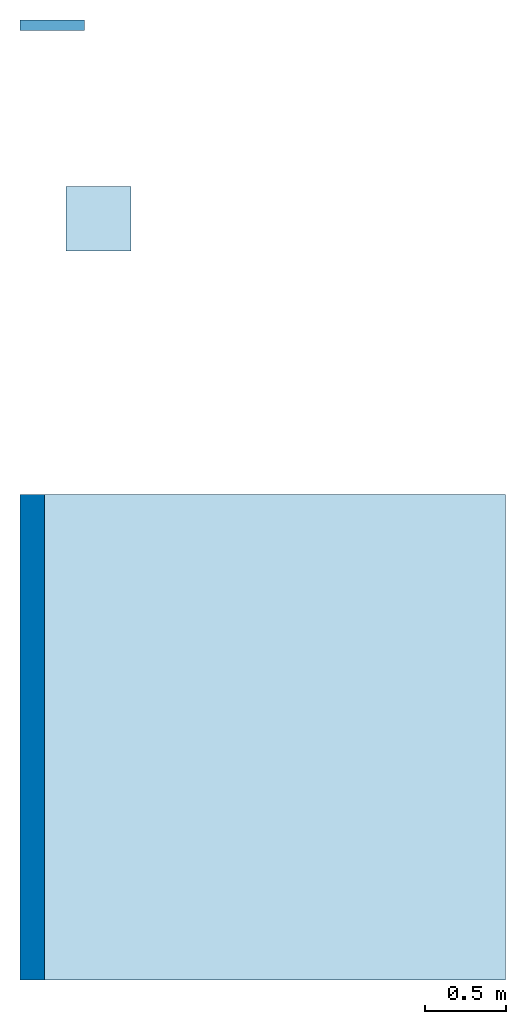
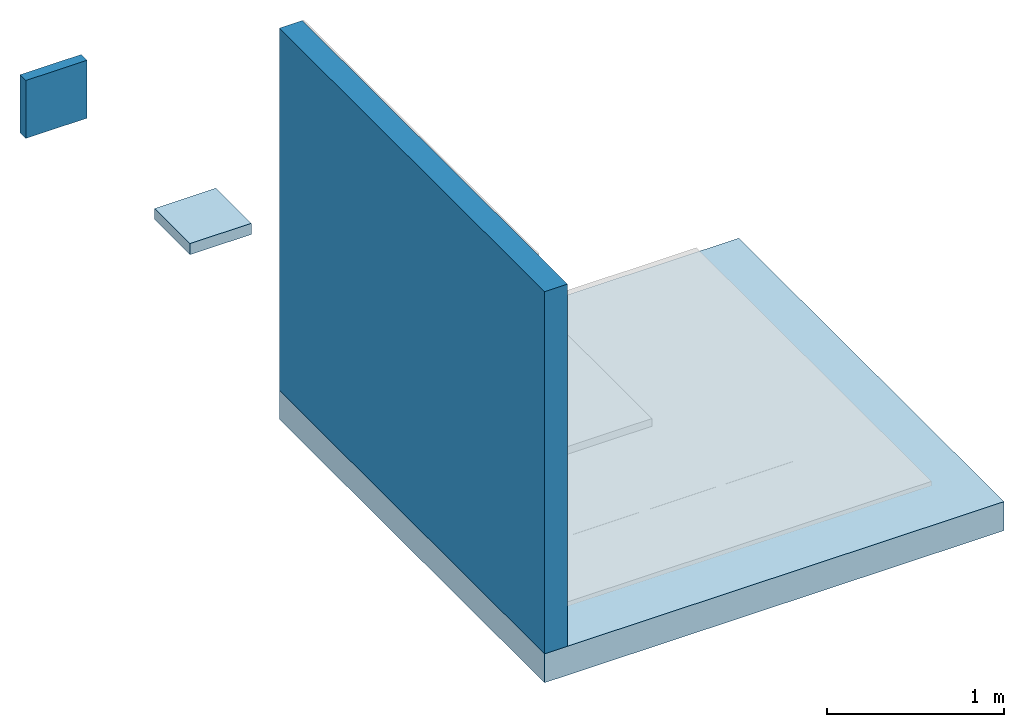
# One storey, part 1 of 2: 2 slabs, 2 walls.
"""IFC2X3 building model written with IfcOpenShell, lengths in metres."""

from ifc_helpers import new_model, entity, si_unit, converted_unit, derived_unit, direction, frame, frame_2d, origin, origin_2d_with_axis, place, context, subcontext, project, spatial, rectangle, extrude, material, layer, layer_set, layer_usage, type_object, element, save


model = new_model("IFC2X3")

# Units and contexts
model_context = context("Model", 3, precision=1e-05, world=origin(), true_north=direction((6.123031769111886e-17, 1.0)))
body_context = subcontext(model_context, "Body", "Model", "MODEL_VIEW")
ifc_project = project(units=[si_unit("LENGTHUNIT", "METRE"), si_unit("AREAUNIT", "SQUARE_METRE"), si_unit("VOLUMEUNIT", "CUBIC_METRE"), converted_unit("PLANEANGLEUNIT", "DEGREE", entity("IfcRatioMeasure", 0.017453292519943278), si_unit("PLANEANGLEUNIT", "RADIAN"), dimensions=[0, 0, 0, 0, 0, 0, 0]), si_unit("MASSUNIT", "GRAM", prefix="KILO"), derived_unit("MASSDENSITYUNIT", [(si_unit("MASSUNIT", "GRAM", prefix="KILO"), 1), (si_unit("LENGTHUNIT", "METRE"), -3)]), derived_unit("IONCONCENTRATIONUNIT", [(si_unit("MASSUNIT", "GRAM", prefix="KILO"), 1), (si_unit("LENGTHUNIT", "METRE"), -3)]), derived_unit("MOMENTOFINERTIAUNIT", [(si_unit("LENGTHUNIT", "METRE"), 4)]), si_unit("TIMEUNIT", "SECOND"), si_unit("FREQUENCYUNIT", "HERTZ"), si_unit("THERMODYNAMICTEMPERATUREUNIT", "DEGREE_CELSIUS"), derived_unit("THERMALTRANSMITTANCEUNIT", [(si_unit("MASSUNIT", "GRAM", prefix="KILO"), 1), (si_unit("THERMODYNAMICTEMPERATUREUNIT", "KELVIN"), -1), (si_unit("TIMEUNIT", "SECOND"), -3)]), derived_unit("THERMALCONDUCTANCEUNIT", [(si_unit("MASSUNIT", "GRAM", prefix="KILO"), 1), (si_unit("THERMODYNAMICTEMPERATUREUNIT", "KELVIN"), -1), (si_unit("TIMEUNIT", "SECOND"), -3), (si_unit("LENGTHUNIT", "METRE"), 1)]), derived_unit("VOLUMETRICFLOWRATEUNIT", [(si_unit("LENGTHUNIT", "METRE"), 3), (si_unit("TIMEUNIT", "SECOND"), -1)]), derived_unit("MASSFLOWRATEUNIT", [(si_unit("MASSUNIT", "GRAM", prefix="KILO"), 1), (si_unit("TIMEUNIT", "SECOND"), -1)]), derived_unit("ROTATIONALFREQUENCYUNIT", [(si_unit("TIMEUNIT", "SECOND"), -1)]), si_unit("ELECTRICCURRENTUNIT", "AMPERE"), si_unit("ELECTRICVOLTAGEUNIT", "VOLT"), si_unit("POWERUNIT", "WATT"), si_unit("FORCEUNIT", "NEWTON", prefix="KILO"), si_unit("ILLUMINANCEUNIT", "LUX"), si_unit("LUMINOUSFLUXUNIT", "LUMEN"), si_unit("LUMINOUSINTENSITYUNIT", "CANDELA"), derived_unit("USERDEFINED", [(si_unit("MASSUNIT", "GRAM", prefix="KILO"), -1), (si_unit("LENGTHUNIT", "METRE"), -2), (si_unit("TIMEUNIT", "SECOND"), 3), (si_unit("LUMINOUSFLUXUNIT", "LUMEN"), 1)]), derived_unit("USERDEFINED", [(si_unit("MASSUNIT", "GRAM", prefix="KILO"), 1), (si_unit("TIMEUNIT", "SECOND"), -3), (si_unit("LENGTHUNIT", "METRE"), 3), (si_unit("ELECTRICCURRENTUNIT", "AMPERE"), -2)]), derived_unit("SOUNDPOWERUNIT", [(si_unit("MASSUNIT", "GRAM", prefix="KILO"), 1), (si_unit("TIMEUNIT", "SECOND"), -3), (si_unit("LENGTHUNIT", "METRE"), 2)]), derived_unit("SOUNDPRESSUREUNIT", [(si_unit("MASSUNIT", "GRAM", prefix="KILO"), 1), (si_unit("LENGTHUNIT", "METRE"), -1), (si_unit("TIMEUNIT", "SECOND"), -2)]), derived_unit("LINEARVELOCITYUNIT", [(si_unit("LENGTHUNIT", "METRE"), 1), (si_unit("TIMEUNIT", "SECOND"), -1)]), si_unit("PRESSUREUNIT", "PASCAL"), derived_unit("USERDEFINED", [(si_unit("MASSUNIT", "GRAM", prefix="KILO"), 1), (si_unit("LENGTHUNIT", "METRE"), -2), (si_unit("TIMEUNIT", "SECOND"), -2)]), derived_unit("LINEARFORCEUNIT", [(si_unit("MASSUNIT", "GRAM", prefix="KILO"), 1), (si_unit("TIMEUNIT", "SECOND"), -2)]), derived_unit("PLANARFORCEUNIT", [(si_unit("MASSUNIT", "GRAM", prefix="KILO"), 1), (si_unit("LENGTHUNIT", "METRE"), -1), (si_unit("TIMEUNIT", "SECOND"), -2)]), derived_unit("SPECIFICHEATCAPACITYUNIT", [(si_unit("THERMODYNAMICTEMPERATUREUNIT", "KELVIN"), -1), (si_unit("LENGTHUNIT", "METRE"), 2), (si_unit("TIMEUNIT", "SECOND"), -2)]), derived_unit("HEATINGVALUEUNIT", [(si_unit("LENGTHUNIT", "METRE"), 2), (si_unit("TIMEUNIT", "SECOND"), -2)]), derived_unit("VAPORPERMEABILITYUNIT", [(si_unit("LENGTHUNIT", "METRE"), -1), (si_unit("TIMEUNIT", "SECOND"), 1)]), derived_unit("DYNAMICVISCOSITYUNIT", [(si_unit("MASSUNIT", "GRAM", prefix="KILO"), 1), (si_unit("TIMEUNIT", "SECOND"), -1), (si_unit("LENGTHUNIT", "METRE"), -1)]), derived_unit("THERMALEXPANSIONCOEFFICIENTUNIT", [(si_unit("THERMODYNAMICTEMPERATUREUNIT", "KELVIN"), -1)]), derived_unit("MODULUSOFELASTICITYUNIT", [(si_unit("MASSUNIT", "GRAM", prefix="KILO"), 1), (si_unit("LENGTHUNIT", "METRE"), -1), (si_unit("TIMEUNIT", "SECOND"), -2)]), derived_unit("ISOTHERMALMOISTURECAPACITYUNIT", [(si_unit("LENGTHUNIT", "METRE"), 3), (si_unit("MASSUNIT", "GRAM", prefix="KILO"), -1)]), derived_unit("MOISTUREDIFFUSIVITYUNIT", [(si_unit("TIMEUNIT", "SECOND"), -1), (si_unit("LENGTHUNIT", "METRE"), 2)])], contexts=[model_context])

# Site, building, storey
site_placement = place(None, origin())
site = spatial("IfcSite", under=ifc_project, at=site_placement, Name="Default", CompositionType="ELEMENT")
building_placement = place(site_placement, origin())
building = spatial("IfcBuilding", under=site, at=building_placement, CompositionType="ELEMENT")
storey_placement = place(building_placement, frame((0.0, 0.0, -0.0025237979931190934)))
storey = spatial("IfcBuildingStorey", under=building, at=storey_placement, Name="ARQ Térreo", CompositionType="ELEMENT", Elevation=-0.0025237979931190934)

# Slabs
ifc_material_1 = material(Name="#concreto")
ifc_layer_1 = layer(ifc_material_1, 0.2)
ifc_layer_set_1 = layer_set([ifc_layer_1], Name="Piso:Piso:LAJE CONCRETO")
ifc_layer_usage_1 = layer_usage(ifc_layer_set_1, "AXIS3", "POSITIVE", 0.0)
slab_type_1 = type_object("IfcSlabType", Name="Piso:Piso:LAJE CONCRETO", PredefinedType="FLOOR", material=ifc_layer_set_1)
slab_1_placement = place(storey_placement, origin())
element("IfcSlab", 1, at=slab_1_placement, inside=storey, type_object=slab_type_1, material=ifc_layer_usage_1, Name="Piso:Piso:LAJE CONCRETO", ObjectType="Piso:Piso:LAJE CONCRETO", PredefinedType="FLOOR", context=body_context, shape_type="SweptSolid", body=[
    extrude(rectangle(XDim=3.0000000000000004, YDim=3.0000000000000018, at=origin_2d_with_axis()), frame((0.9980295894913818, -1.354129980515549, 0.0), z_axis=(0.0, 0.0, -1.0), x_axis=(0.0, 1.0, 0.0)), (0.0, 0.0, 1.0), 0.2),
])
ifc_material_2 = material(Name="#revestimento")
ifc_layer_2 = layer(ifc_material_2, 0.005)
ifc_material_3 = material(Name="#proteção mecânica")
ifc_layer_3 = layer(ifc_material_3, 0.05)
ifc_material_4 = material(Name="#Emulsão Viapol Antirruido")
ifc_layer_4 = layer(ifc_material_4, 0.0019999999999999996)
ifc_material_5 = material(Name="#argamassa")
ifc_layer_5 = layer(ifc_material_5, 0.02)
ifc_layer_set_2 = layer_set([ifc_layer_2, ifc_layer_3, ifc_layer_4, ifc_layer_5], Name="Piso:IMPH_EMULSÃO VIAPOL ANTIRRUIDO")
ifc_layer_usage_2 = layer_usage(ifc_layer_set_2, "AXIS3", "POSITIVE", 0.0)
slab_type_2 = type_object("IfcSlabType", Name="Piso:IMPH_EMULSÃO VIAPOL ANTIRRUIDO", PredefinedType="FLOOR", material=ifc_layer_set_2)
slab_2_placement = place(storey_placement, origin())
element("IfcSlab", 2, at=slab_2_placement, inside=storey, type_object=slab_type_2, material=ifc_layer_usage_2, Name="Piso:IMPH_EMULSÃO VIAPOL ANTIRRUIDO", ObjectType="Piso:IMPH_EMULSÃO VIAPOL ANTIRRUIDO", PredefinedType="FLOOR", context=body_context, shape_type="SweptSolid", body=[
    extrude(rectangle(XDim=0.4, YDim=0.4, at=origin_2d_with_axis()), frame((-0.01614191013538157, 1.8510407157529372, 0.0), z_axis=(0.0, 0.0, -1.0), x_axis=(0.0, 1.0, 0.0)), (0.0, 0.0, 1.0), 0.07700000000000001),
])

# Walls
ifc_layer_6 = layer(ifc_material_1, 0.14999999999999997)
ifc_layer_set_3 = layer_set([ifc_layer_6], Name="Parede básica:Parede básica:Parede Concreto")
ifc_layer_usage_3 = layer_usage(ifc_layer_set_3, "AXIS2", "NEGATIVE", 0.07499999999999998)
wall_type_1 = type_object("IfcWallType", Name="Parede básica:Parede básica:Parede Concreto", PredefinedType="STANDARD", material=ifc_layer_set_3)
wall_1_placement = place(storey_placement, frame((-0.4269704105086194, 0.14587001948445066, 0.0), z_axis=(0.0, 0.0, 1.0), x_axis=(0.0, -1.0, 0.0)))
element("IfcWallStandardCase", 3, at=wall_1_placement, inside=storey, type_object=wall_type_1, material=ifc_layer_usage_3, Name="Parede básica:Parede Concreto", ObjectType="Parede básica:Parede Concreto", context=body_context, shape_type="SweptSolid", body=[
    extrude(rectangle(XDim=2.9999999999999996, YDim=0.15000000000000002, at=frame_2d((1.4999999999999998, 0.0), x_axis=(-1.0, 0.0))), origin(), (0.0, 0.0, 1.0), 2.4999999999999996),
])
ifc_layer_7 = layer(ifc_material_2, 0.005)
ifc_layer_8 = layer(ifc_material_3, 0.05)
ifc_layer_9 = layer(ifc_material_4, 0.0009999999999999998)
ifc_layer_10 = layer(ifc_material_5, 0.01)
ifc_layer_set_4 = layer_set([ifc_layer_7, ifc_layer_8, ifc_layer_9, ifc_layer_10], Name="Parede básica:IMPV_EMULSÃO VIAPOL ANTIRRUIDO")
ifc_layer_usage_4 = layer_usage(ifc_layer_set_4, "AXIS2", "POSITIVE", -0.033)
wall_type_2 = type_object("IfcWallType", Name="Parede básica:IMPV_EMULSÃO VIAPOL ANTIRRUIDO", PredefinedType="STANDARD", material=ifc_layer_set_4)
wall_2_placement = place(storey_placement, frame((-0.5019704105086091, 3.0458700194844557, 0.0)))
element("IfcWallStandardCase", 4, at=wall_2_placement, inside=storey, type_object=wall_type_2, material=ifc_layer_usage_4, Name="Parede básica:IMPV_T4PP", ObjectType="Parede básica:IMPV_T4PP", context=body_context, shape_type="SweptSolid", body=[
    extrude(rectangle(XDim=0.4, YDim=0.06600000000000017, at=frame_2d((0.2, -1.0408340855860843e-16), x_axis=(-1.0, 0.0))), origin(), (0.0, 0.0, 1.0), 0.4),
])

save(model, "model.ifc")
